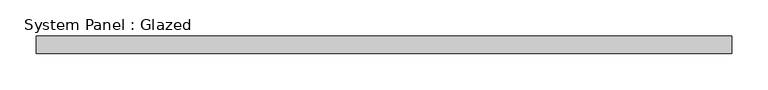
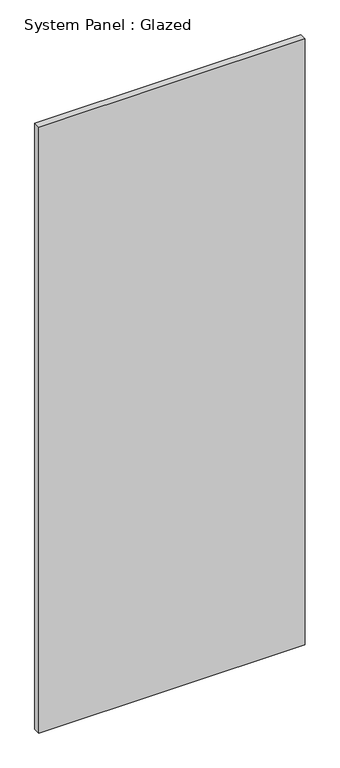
"""IFC4 building model written with IfcOpenShell, lengths in millimetres: plate geometry, System Panel : Glazed."""

from ifc_helpers import new_model, si_unit, origin, origin_with_axes, place, context, project, spatial, polyline, outline, extrude, source, transform, mapped, element, save


def system_panel_glazed_23566d67(model_context):
    return source(origin(), model_context, "Body", "SweptSolid", [
        extrude(outline(polyline([(483.3333332, 24.5), (-483.3333332, 24.5), (-483.3333332, 49.5), (483.3333332, 49.5), (483.3333332, 24.5)])), origin_with_axes(), (0.0, 0.0, 1.0), 2325.0),
    ])


if __name__ == "__main__":
    model = new_model("IFC4")
    model_context = context("Model", 3, world=origin())
    ifc_project = project(units=[si_unit("LENGTHUNIT", "METRE", prefix="MILLI")], contexts=[model_context])
    site = spatial("IfcSite", under=ifc_project)
    building = spatial("IfcBuilding", under=site)
    placement = place(None, origin())
    system_panel_glazed_shape = system_panel_glazed_23566d67(model_context)
    element("IfcPlate", 1, ObjectType="System Panel : Glazed", at=placement, inside=building, context=model_context, shape_type="MappedRepresentation", body=[
        mapped(system_panel_glazed_shape, transform((0.0, 0.0, 0.0), x_axis=(1.0, 0.0, 0.0), y_axis=(0.0, 1.0, 0.0), z_axis=(0.0, 0.0, 1.0))),
    ])
    save(model, "model.ifc")
